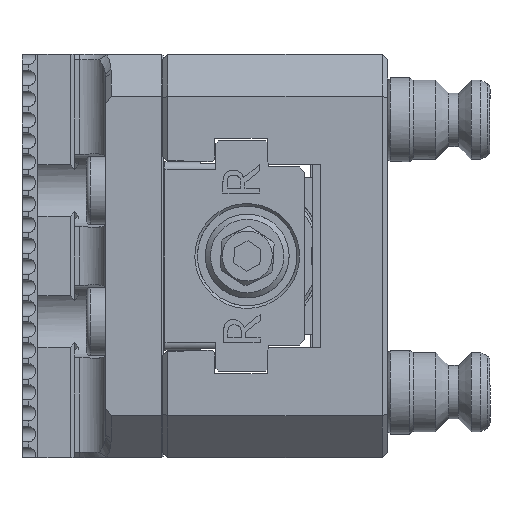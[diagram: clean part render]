
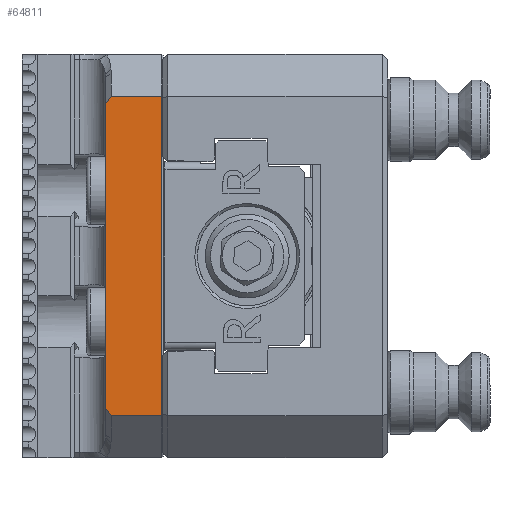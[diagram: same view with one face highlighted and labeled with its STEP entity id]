
A CAD part, left-side view. The second image highlights one B-rep face of the part: STEP entity #64811.
In plain terms, the highlighted planar face has unit normal (-1, 0, 0).
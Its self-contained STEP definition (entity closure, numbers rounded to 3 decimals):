
#40 = EDGE_CURVE ( 'NONE', #81628, #84529, #89033, .T. ) ;
#2585 = CARTESIAN_POINT ( 'NONE',  ( -61.1, 53.133, 30.029 ) ) ;
#7168 = B_SPLINE_CURVE_WITH_KNOTS ( 'NONE', 3,
 ( #65852, #90808, #49788, #7596 ),
 .UNSPECIFIED., .F., .F.,
 ( 4, 4 ),
 ( 0., 1. ),
 .UNSPECIFIED. ) ;
#7596 = CARTESIAN_POINT ( 'NONE',  ( -61.1, 43.1, -30.5 ) ) ;
#13550 = ORIENTED_EDGE ( 'NONE', *, *, #40, .T. ) ;
#14661 = CARTESIAN_POINT ( 'NONE',  ( -61.1, 46.333, -30.5 ) ) ;
#18669 = CARTESIAN_POINT ( 'NONE',  ( -61.1, 52.8, 30.5 ) ) ;
#18954 = FACE_OUTER_BOUND ( 'NONE', #37682, .T. ) ;
#20859 = CARTESIAN_POINT ( 'NONE',  ( -61.1, 53.8, 29.086 ) ) ;
#23810 = VERTEX_POINT ( 'NONE', #85295 ) ;
#25493 = VERTEX_POINT ( 'NONE', #79980 ) ;
#26563 = CARTESIAN_POINT ( 'NONE',  ( -61.1, 52.8, 30.5 ) ) ;
#31338 = CARTESIAN_POINT ( 'NONE',  ( -61.1, 53.467, -29.557 ) ) ;
#31537 = CARTESIAN_POINT ( 'NONE',  ( -61.1, 53.8, -9.695 ) ) ;
#31898 = CARTESIAN_POINT ( 'NONE',  ( -61.1, 49.567, -30.5 ) ) ;
#32138 = CARTESIAN_POINT ( 'NONE',  ( -61.1, 49.567, 30.5 ) ) ;
#32419 = CARTESIAN_POINT ( 'NONE',  ( -61.1, 43.1, 30.5 ) ) ;
#32685 = CARTESIAN_POINT ( 'NONE',  ( -61.1, 43.1, 30.5 ) ) ;
#32982 = CARTESIAN_POINT ( 'NONE',  ( -61.1, 52.8, -30.5 ) ) ;
#37682 = EDGE_LOOP ( 'NONE', ( #13550, #55043, #40039, #58987, #43777, #40278 ) ) ;
#40039 = ORIENTED_EDGE ( 'NONE', *, *, #106712, .F. ) ;
#40278 = ORIENTED_EDGE ( 'NONE', *, *, #86853, .T. ) ;
#42873 = DIRECTION ( 'NONE',  ( 0., 0., 1. ) ) ;
#43777 = ORIENTED_EDGE ( 'NONE', *, *, #46781, .T. ) ;
#46781 = EDGE_CURVE ( 'NONE', #23810, #50022, #73145, .T. ) ;
#47105 = B_SPLINE_CURVE_WITH_KNOTS ( 'NONE', 3,
 ( #49271, #99681, #31537, #63304 ),
 .UNSPECIFIED., .F., .F.,
 ( 4, 4 ),
 ( 0., 1. ),
 .UNSPECIFIED. ) ;
#49271 = CARTESIAN_POINT ( 'NONE',  ( -61.1, 53.8, 29.086 ) ) ;
#49788 = CARTESIAN_POINT ( 'NONE',  ( -61.1, 43.1, -10.167 ) ) ;
#49891 = B_SPLINE_CURVE_WITH_KNOTS ( 'NONE', 3,
 ( #82878, #31898, #14661, #66232 ),
 .UNSPECIFIED., .F., .F.,
 ( 4, 4 ),
 ( 0., 1. ),
 .UNSPECIFIED. ) ;
#50022 = VERTEX_POINT ( 'NONE', #108303 ) ;
#52226 = CARTESIAN_POINT ( 'NONE',  ( -61.1, 52.8, -30.5 ) ) ;
#54364 = B_SPLINE_CURVE_WITH_KNOTS ( 'NONE', 3,
 ( #32685, #108048, #32138, #26563 ),
 .UNSPECIFIED., .F., .F.,
 ( 4, 4 ),
 ( 0., 1. ),
 .UNSPECIFIED. ) ;
#55043 = ORIENTED_EDGE ( 'NONE', *, *, #73311, .T. ) ;
#58987 = ORIENTED_EDGE ( 'NONE', *, *, #89492, .T. ) ;
#62493 = CARTESIAN_POINT ( 'NONE',  ( -61.1, 53.467, 29.557 ) ) ;
#63304 = CARTESIAN_POINT ( 'NONE',  ( -61.1, 53.8, -29.086 ) ) ;
#64811 = ADVANCED_FACE ( 'NONE', ( #18954 ), #68357, .T. ) ;
#65852 = CARTESIAN_POINT ( 'NONE',  ( -61.1, 43.1, 30.5 ) ) ;
#66232 = CARTESIAN_POINT ( 'NONE',  ( -61.1, 43.1, -30.5 ) ) ;
#67034 = CARTESIAN_POINT ( 'NONE',  ( -61.1, 53.8, -29.086 ) ) ;
#68357 = PLANE ( 'NONE',  #73260 ) ;
#73145 = B_SPLINE_CURVE_WITH_KNOTS ( 'NONE', 3,
 ( #18669, #2585, #62493, #20859 ),
 .UNSPECIFIED., .F., .F.,
 ( 4, 4 ),
 ( 0., 1. ),
 .UNSPECIFIED. ) ;
#73260 = AXIS2_PLACEMENT_3D ( 'NONE', #86078, #78839, #42873 ) ;
#73311 = EDGE_CURVE ( 'NONE', #84529, #25493, #49891, .T. ) ;
#78839 = DIRECTION ( 'NONE',  ( -1., 0., 0. ) ) ;
#79980 = CARTESIAN_POINT ( 'NONE',  ( -61.1, 43.1, -30.5 ) ) ;
#81628 = VERTEX_POINT ( 'NONE', #67034 ) ;
#82878 = CARTESIAN_POINT ( 'NONE',  ( -61.1, 52.8, -30.5 ) ) ;
#84529 = VERTEX_POINT ( 'NONE', #52226 ) ;
#85295 = CARTESIAN_POINT ( 'NONE',  ( -61.1, 52.8, 30.5 ) ) ;
#86078 = CARTESIAN_POINT ( 'NONE',  ( -61.1, 56.3, 0. ) ) ;
#86853 = EDGE_CURVE ( 'NONE', #50022, #81628, #47105, .T. ) ;
#89033 = B_SPLINE_CURVE_WITH_KNOTS ( 'NONE', 3,
 ( #107252, #31338, #98956, #32982 ),
 .UNSPECIFIED., .F., .F.,
 ( 4, 4 ),
 ( 0., 1. ),
 .UNSPECIFIED. ) ;
#89492 = EDGE_CURVE ( 'NONE', #95414, #23810, #54364, .T. ) ;
#90808 = CARTESIAN_POINT ( 'NONE',  ( -61.1, 43.1, 10.167 ) ) ;
#95414 = VERTEX_POINT ( 'NONE', #32419 ) ;
#98956 = CARTESIAN_POINT ( 'NONE',  ( -61.1, 53.133, -30.029 ) ) ;
#99681 = CARTESIAN_POINT ( 'NONE',  ( -61.1, 53.8, 9.695 ) ) ;
#106712 = EDGE_CURVE ( 'NONE', #95414, #25493, #7168, .T. ) ;
#107252 = CARTESIAN_POINT ( 'NONE',  ( -61.1, 53.8, -29.086 ) ) ;
#108048 = CARTESIAN_POINT ( 'NONE',  ( -61.1, 46.333, 30.5 ) ) ;
#108303 = CARTESIAN_POINT ( 'NONE',  ( -61.1, 53.8, 29.086 ) ) ;
